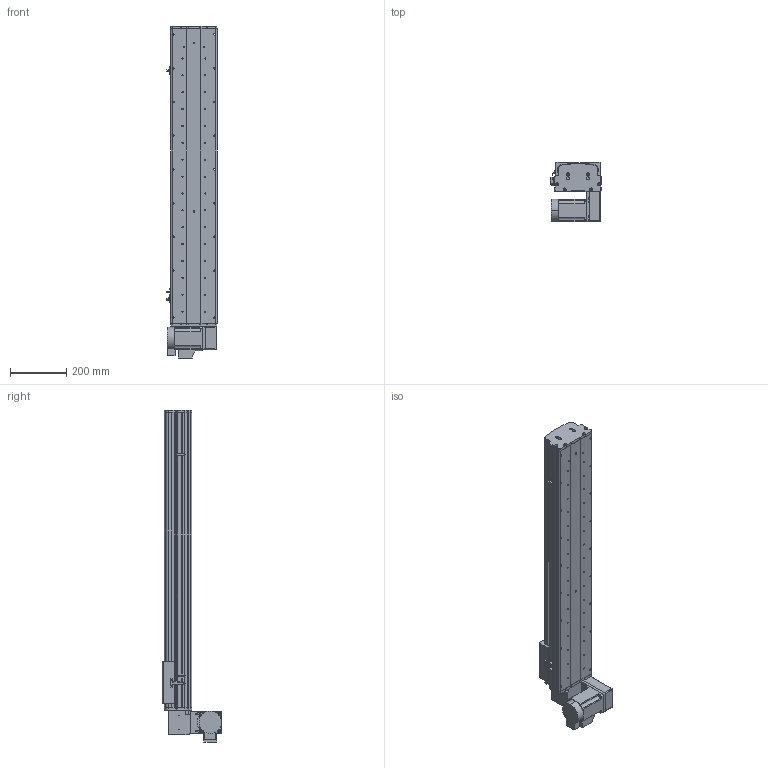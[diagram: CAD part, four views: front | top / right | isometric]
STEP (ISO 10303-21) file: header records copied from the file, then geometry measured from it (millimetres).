
FILE_DESCRIPTION (( 'STEP AP214' ), '1' );
FILE_NAME ('KSD165B-S800-MRD-CM.STEP', '2017-10-16T09:28:44', ( '微软用户' ), ( '微软中国' ), 'SwSTEP 2.0', 'SolidWorks 2014', '' );
FILE_SCHEMA (( 'AUTOMOTIVE_DESIGN' ));
Length unit declared in the file: millimetre
Products named in the file (17): HTPA26S5M250-A-H8 400W萇儂蚚 ; KSD165模组-同步带防尘盖1-800行程-最新版; KSD165模组同步带底板-800行程-最新; 拸秶雄ん750W侜督萇儂; 165宽马达安装板同步带右; U倰嫖萇假蚾璃; U倰嫖萇EEㄜSX672; 覜茼え68遵圉猾敕; KSD165模组-同步带-防撞垫2; KSD165模组同步带-防撞垫1; KSD165耀郪-ヶ傷啣1-肮祭湍; KSD165模组-后端板1-同步带; KSD165模组-同步带滑动座-最新版; KSD165B-S800-MRD-CM; 130宽模组马达安装板连板上下折丝杆同步带; 130宽模组保护罩上下左右折-同步带; HTPA26S5M250-A-H8 750W萇儂蚚
Assembly tree (20 placements, depth 2):
  KSD165B-S800-MRD-CM
    KSD165模组-同步带滑动座-最新版
    KSD165模组-后端板1-同步带
    KSD165耀郪-ヶ傷啣1-肮祭湍
    KSD165模组同步带-防撞垫1
    KSD165模组-同步带-防撞垫2
    覜茼え68遵圉猾敕
    U倰嫖萇EEㄜSX672  x3
    U倰嫖萇假蚾璃  x3
    165宽马达安装板同步带右
    拸秶雄ん750W侜督萇儂
    KSD165模组同步带底板-800行程-最新
    KSD165模组-同步带防尘盖1-800行程-最新版
    HTPA26S5M250-A-H8 400W萇儂蚚 
    HTPA26S5M250-A-H8 750W萇儂蚚
    130宽模组保护罩上下左右折-同步带
    130宽模组马达安装板连板上下折丝杆同步带
Bounding box: 178.7 x 210 x 1180.5 mm (x, y, z)
Volume: 7015930.3 mm3; surface area: 1627309.2 mm2
Topology: 21 solids, 21 shells, 1939 faces, 5472 edges, 3572 vertices
Faces by surface type: cylinder 1243, plane 584, cone 112
Entity records: 62772 total; most frequent: CARTESIAN_POINT 12868, DIRECTION 10332, ORIENTED_EDGE 9604, EDGE_CURVE 4802, AXIS2_PLACEMENT_3D 4050, VERTEX_POINT 3164, CIRCLE 2308, LINE 2232
